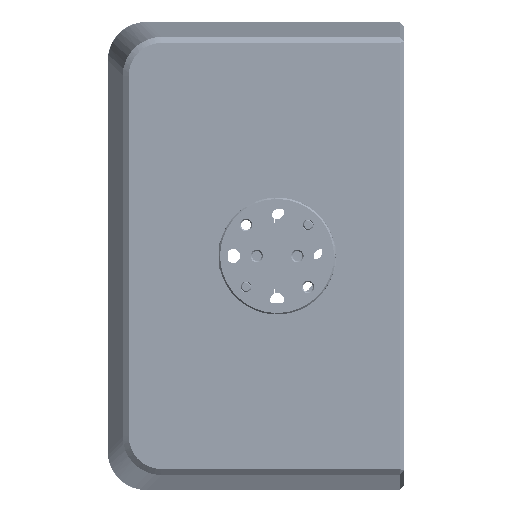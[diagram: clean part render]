
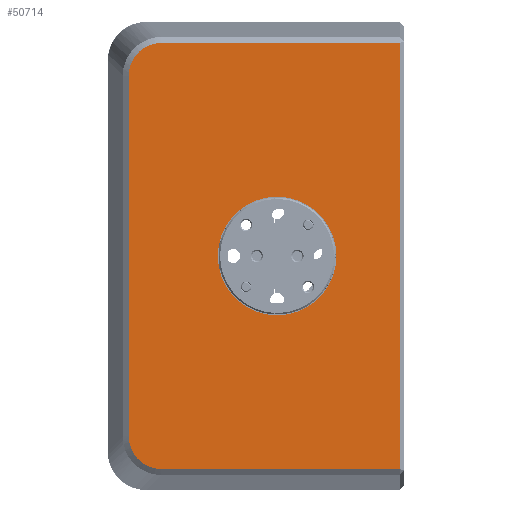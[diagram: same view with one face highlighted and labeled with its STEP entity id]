
A CAD part, left-side view. The second image highlights one B-rep face of the part: STEP entity #50714.
In plain terms, the highlighted planar face has unit normal (-1, 0, 0).
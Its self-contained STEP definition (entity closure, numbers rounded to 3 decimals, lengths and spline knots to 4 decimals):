
#1452 = DIRECTION ( 'NONE',  ( 0., 0., -1. ) ) ;
#6461 = EDGE_CURVE ( 'NONE', #191891, #137729, #136557, .T. ) ;
#8685 = CARTESIAN_POINT ( 'NONE',  ( -4.25, -6.8392, 1.3651 ) ) ;
#10760 = CARTESIAN_POINT ( 'NONE',  ( -4.25, -6.8667, 1.3651 ) ) ;
#14064 = CARTESIAN_POINT ( 'NONE',  ( -4.25, -6.684, -1.2616 ) ) ;
#17568 = EDGE_CURVE ( 'NONE', #153273, #193904, #97834, .T. ) ;
#19619 = CARTESIAN_POINT ( 'NONE',  ( -4.25, -6.6578, -1.1562 ) ) ;
#19951 = ORIENTED_EDGE ( 'NONE', *, *, #93959, .T. ) ;
#21243 = CARTESIAN_POINT ( 'NONE',  ( -4.25, -6.6578, 0. ) ) ;
#22042 = VERTEX_POINT ( 'NONE', #189319 ) ;
#28111 = CARTESIAN_POINT ( 'NONE',  ( -4.25, -6.6632, 1.2111 ) ) ;
#29305 = CARTESIAN_POINT ( 'NONE',  ( -4.25, -6.6578, 1.1562 ) ) ;
#29607 = DIRECTION ( 'NONE',  ( 0., 0., 1. ) ) ;
#34683 = CARTESIAN_POINT ( 'NONE',  ( -4.25, -6.738, -1.3234 ) ) ;
#37104 = CIRCLE ( 'NONE', #149730, 0.38 ) ;
#38821 = ORIENTED_EDGE ( 'NONE', *, *, #185124, .T. ) ;
#46397 = CARTESIAN_POINT ( 'NONE',  ( -4.25, -6.738, 1.3234 ) ) ;
#47899 = CARTESIAN_POINT ( 'NONE',  ( -4.25, -7.6079, 0. ) ) ;
#50714 = ADVANCED_FACE ( 'NONE', ( #218139, #167964 ), #150910, .F. ) ;
#51673 = CARTESIAN_POINT ( 'NONE',  ( -4.25, -7.4729, 0. ) ) ;
#52963 = CARTESIAN_POINT ( 'NONE',  ( -4.25, -6.6632, -1.2111 ) ) ;
#53482 = VERTEX_POINT ( 'NONE', #71343 ) ;
#57213 = ORIENTED_EDGE ( 'NONE', *, *, #17568, .F. ) ;
#57370 = LINE ( 'NONE', #203175, #97892 ) ;
#65178 = LINE ( 'NONE', #66372, #180579 ) ;
#65823 = CARTESIAN_POINT ( 'NONE',  ( -4.25, -6.6578, 1.1837 ) ) ;
#66372 = CARTESIAN_POINT ( 'NONE',  ( -4.25, -7.4729, -1.3651 ) ) ;
#68772 = ORIENTED_EDGE ( 'NONE', *, *, #70261, .T. ) ;
#70261 = EDGE_CURVE ( 'NONE', #231799, #192743, #232749, .T. ) ;
#71343 = CARTESIAN_POINT ( 'NONE',  ( -4.25, -8.3929, -1.3651 ) ) ;
#82887 = CARTESIAN_POINT ( 'NONE',  ( -4.25, -6.7612, 1.3388 ) ) ;
#84076 = CARTESIAN_POINT ( 'NONE',  ( -4.25, -6.8667, 1.3651 ) ) ;
#88248 = CARTESIAN_POINT ( 'NONE',  ( -4.25, -6.8392, -1.3651 ) ) ;
#89376 = DIRECTION ( 'NONE',  ( 0., 0., 1. ) ) ;
#89446 = CARTESIAN_POINT ( 'NONE',  ( -4.25, -6.6578, -1.1562 ) ) ;
#92480 = EDGE_CURVE ( 'NONE', #193904, #153273, #37104, .T. ) ;
#92965 = DIRECTION ( 'NONE',  ( -1., 0., 0. ) ) ;
#93322 = B_SPLINE_CURVE_WITH_KNOTS ( 'NONE', 3,
 ( #84076, #8685, #195837, #82887, #46397, #124103, #198231, #28111, #65823, #29305 ),
 .UNSPECIFIED., .F., .F.,
 ( 4, 2, 2, 2, 4 ),
 ( 0., 0.25, 0.5, 0.75, 1. ),
 .UNSPECIFIED. ) ;
#93959 = EDGE_CURVE ( 'NONE', #192743, #53482, #65178, .T. ) ;
#97834 = CIRCLE ( 'NONE', #233619, 0.38 ) ;
#97892 = VECTOR ( 'NONE', #239636, 39.3701 ) ;
#110345 = CARTESIAN_POINT ( 'NONE',  ( -4.25, -7.6079, -0.38 ) ) ;
#110717 = ORIENTED_EDGE ( 'NONE', *, *, #188664, .T. ) ;
#119483 = CARTESIAN_POINT ( 'NONE',  ( -4.25, -7.4729, 1.3651 ) ) ;
#122019 = DIRECTION ( 'NONE',  ( -1., 0., 0. ) ) ;
#124103 = CARTESIAN_POINT ( 'NONE',  ( -4.25, -6.6995, 1.2849 ) ) ;
#125846 = DIRECTION ( 'NONE',  ( 1., 0., 0. ) ) ;
#128320 = CARTESIAN_POINT ( 'NONE',  ( -4.25, -6.6995, -1.2849 ) ) ;
#129518 = LINE ( 'NONE', #21243, #154323 ) ;
#130612 = EDGE_LOOP ( 'NONE', ( #132610, #57213 ) ) ;
#132610 = ORIENTED_EDGE ( 'NONE', *, *, #92480, .F. ) ;
#135678 = EDGE_CURVE ( 'NONE', #53482, #191891, #57370, .T. ) ;
#136557 = LINE ( 'NONE', #119483, #181517 ) ;
#137729 = VERTEX_POINT ( 'NONE', #10760 ) ;
#141749 = CARTESIAN_POINT ( 'NONE',  ( -4.25, -6.6578, -1.1836 ) ) ;
#149730 = AXIS2_PLACEMENT_3D ( 'NONE', #47899, #122019, #29607 ) ;
#150910 = PLANE ( 'NONE',  #172541 ) ;
#153273 = VERTEX_POINT ( 'NONE', #110345 ) ;
#154323 = VECTOR ( 'NONE', #203571, 39.3701 ) ;
#156003 = CARTESIAN_POINT ( 'NONE',  ( -4.25, -7.6079, 0.38 ) ) ;
#162342 = CARTESIAN_POINT ( 'NONE',  ( -4.25, -6.8667, -1.3651 ) ) ;
#163554 = CARTESIAN_POINT ( 'NONE',  ( -4.25, -6.8117, -1.3596 ) ) ;
#167964 = FACE_OUTER_BOUND ( 'NONE', #219250, .T. ) ;
#172541 = AXIS2_PLACEMENT_3D ( 'NONE', #51673, #125846, #1452 ) ;
#178119 = DIRECTION ( 'NONE',  ( 0., -1., 0. ) ) ;
#180579 = VECTOR ( 'NONE', #178119, 39.3701 ) ;
#181517 = VECTOR ( 'NONE', #207011, 39.3701 ) ;
#185124 = EDGE_CURVE ( 'NONE', #137729, #22042, #93322, .T. ) ;
#188664 = EDGE_CURVE ( 'NONE', #22042, #231799, #129518, .T. ) ;
#189319 = CARTESIAN_POINT ( 'NONE',  ( -4.25, -6.6578, 1.1562 ) ) ;
#191891 = VERTEX_POINT ( 'NONE', #204326 ) ;
#192743 = VERTEX_POINT ( 'NONE', #213581 ) ;
#193904 = VERTEX_POINT ( 'NONE', #156003 ) ;
#195837 = CARTESIAN_POINT ( 'NONE',  ( -4.25, -6.8117, 1.3596 ) ) ;
#198231 = CARTESIAN_POINT ( 'NONE',  ( -4.25, -6.684, 1.2616 ) ) ;
#200720 = ORIENTED_EDGE ( 'NONE', *, *, #135678, .T. ) ;
#201124 = CARTESIAN_POINT ( 'NONE',  ( -4.25, -7.6079, 0. ) ) ;
#203175 = CARTESIAN_POINT ( 'NONE',  ( -4.25, -8.3929, 0. ) ) ;
#203571 = DIRECTION ( 'NONE',  ( 0., 0., -1. ) ) ;
#204326 = CARTESIAN_POINT ( 'NONE',  ( -4.25, -8.3929, 1.3651 ) ) ;
#207011 = DIRECTION ( 'NONE',  ( 0., 1., 0. ) ) ;
#213581 = CARTESIAN_POINT ( 'NONE',  ( -4.25, -6.8667, -1.3651 ) ) ;
#218139 = FACE_BOUND ( 'NONE', #130612, .T. ) ;
#219250 = EDGE_LOOP ( 'NONE', ( #68772, #19951, #200720, #221022, #38821, #110717 ) ) ;
#221022 = ORIENTED_EDGE ( 'NONE', *, *, #6461, .T. ) ;
#231799 = VERTEX_POINT ( 'NONE', #19619 ) ;
#232749 = B_SPLINE_CURVE_WITH_KNOTS ( 'NONE', 3,
 ( #89446, #141749, #52963, #14064, #128320, #34683, #237643, #163554, #88248, #162342 ),
 .UNSPECIFIED., .F., .F.,
 ( 4, 2, 2, 2, 4 ),
 ( 0., 0.25, 0.5, 0.75, 1. ),
 .UNSPECIFIED. ) ;
#233619 = AXIS2_PLACEMENT_3D ( 'NONE', #201124, #92965, #89376 ) ;
#237643 = CARTESIAN_POINT ( 'NONE',  ( -4.25, -6.7612, -1.3388 ) ) ;
#239636 = DIRECTION ( 'NONE',  ( 0., 0., 1. ) ) ;
